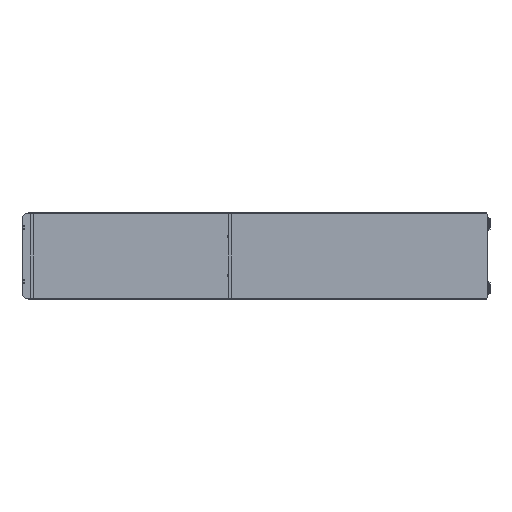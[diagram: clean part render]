
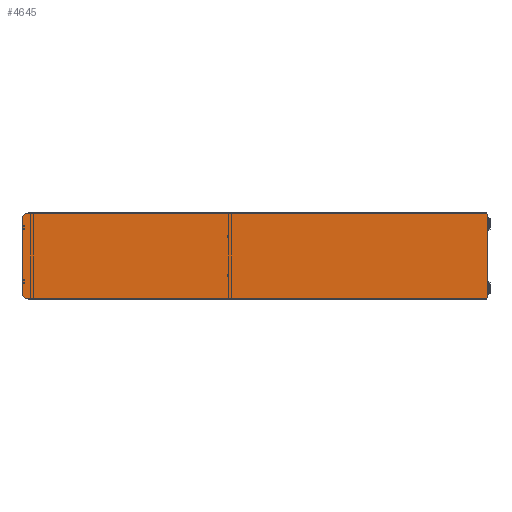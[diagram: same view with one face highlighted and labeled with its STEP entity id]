
A CAD part, left-side view. The second image highlights one B-rep face of the part: STEP entity #4645.
In plain terms, the highlighted planar face has unit normal (-1, 0, 0) as drawn and (0, 0, 1) by its records, which use the part's own axes.
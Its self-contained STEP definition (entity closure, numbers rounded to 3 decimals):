
#2967=CARTESIAN_POINT('',(-197.717,-1059.035,0.118));
#2980=DIRECTION('',(0.,-1.,0.));
#2981=VECTOR('',#2980,2118.113);
#2982=CARTESIAN_POINT('',(-197.636,1059.078,
0.12));
#2983=LINE('',#2982,#2981);
#2988=CARTESIAN_POINT('',(-197.636,1059.078,
0.12));
#3186=DIRECTION('',(-1.,0.,0.));
#3187=VECTOR('',#3186,365.319);
#3188=CARTESIAN_POINT('',(182.66,-1088.91,0.12));
#3189=LINE('',#3188,#3187);
#3190=DIRECTION('',(-0.707,0.707,0.));
#3191=VECTOR('',#3190,21.313);
#3192=CARTESIAN_POINT('',(-182.66,-1088.91,0.12));
#3193=LINE('',#3192,#3191);
#3194=DIRECTION('',(0.001,1.,0.));
#3195=VECTOR('',#3194,14.805);
#3196=CARTESIAN_POINT('',(-197.73,-1073.84,0.12));
#3197=LINE('',#3196,#3195);
#3198=DIRECTION('',(0.708,0.706,0.));
#3199=VECTOR('',#3198,5.279);
#3200=CARTESIAN_POINT('',(-197.636,1059.078,
0.12));
#3201=LINE('',#3200,#3199);
#3202=DIRECTION('',(0.708,-0.706,0.));
#3203=VECTOR('',#3202,5.308);
#3204=CARTESIAN_POINT('',(193.876,1062.824,0.12));
#3205=LINE('',#3204,#3203);
#3206=DIRECTION('',(0.,-1.,0.));
#3207=VECTOR('',#3206,2118.059);
#3208=CARTESIAN_POINT('',(197.636,1059.078,0.12));
#3209=LINE('',#3208,#3207);
#3210=DIRECTION('',(0.001,-1.,0.));
#3211=VECTOR('',#3210,14.858);
#3212=CARTESIAN_POINT('',(197.717,-1058.981,
0.119));
#3213=LINE('',#3212,#3211);
#3214=DIRECTION('',(-0.707,-0.707,0.));
#3215=VECTOR('',#3214,21.313);
#3216=CARTESIAN_POINT('',(197.73,-1073.84,0.12));
#3217=LINE('',#3216,#3215);
#3218=CARTESIAN_POINT('',(-140.,-1082.32,0.12));
#3219=DIRECTION('',(0.,0.,1.));
#3220=DIRECTION('',(-1.,0.,0.));
#3221=AXIS2_PLACEMENT_3D('',#3218,#3219,#3220);
#3223=CARTESIAN_POINT('',(-140.,-1077.82,0.12));
#3224=DIRECTION('',(0.,0.,1.));
#3225=DIRECTION('',(1.,0.,0.));
#3226=AXIS2_PLACEMENT_3D('',#3223,#3224,#3225);
#3228=CARTESIAN_POINT('',(110.,-1077.82,0.12));
#3229=DIRECTION('',(0.,0.,1.));
#3230=DIRECTION('',(1.,0.,0.));
#3231=AXIS2_PLACEMENT_3D('',#3228,#3229,#3230);
#3233=CARTESIAN_POINT('',(110.,-1082.32,0.12));
#3234=DIRECTION('',(0.,0.,1.));
#3235=DIRECTION('',(-1.,0.,0.));
#3236=AXIS2_PLACEMENT_3D('',#3233,#3234,#3235);
#3238=CARTESIAN_POINT('',(-125.,-1077.82,0.12));
#3239=DIRECTION('',(0.,0.,1.));
#3240=DIRECTION('',(1.,0.,0.));
#3241=AXIS2_PLACEMENT_3D('',#3238,#3239,#3240);
#3243=CARTESIAN_POINT('',(-125.,-1082.32,0.12));
#3244=DIRECTION('',(0.,0.,1.));
#3245=DIRECTION('',(-1.,0.,0.));
#3246=AXIS2_PLACEMENT_3D('',#3243,#3244,#3245);
#3248=CARTESIAN_POINT('',(125.,-1082.32,0.12));
#3249=DIRECTION('',(0.,0.,1.));
#3250=DIRECTION('',(-1.,0.,0.));
#3251=AXIS2_PLACEMENT_3D('',#3248,#3249,#3250);
#3253=CARTESIAN_POINT('',(125.,-1077.82,0.12));
#3254=DIRECTION('',(0.,0.,1.));
#3255=DIRECTION('',(1.,0.,0.));
#3256=AXIS2_PLACEMENT_3D('',#3253,#3254,#3255);
#3287=DIRECTION('',(-1.,0.,0.));
#3288=VECTOR('',#3287,387.774);
#3289=CARTESIAN_POINT('',(193.876,1062.824,0.12));
#3290=LINE('',#3289,#3288);
#3860=DIRECTION('',(0.,1.,0.));
#3861=VECTOR('',#3860,4.5);
#3862=CARTESIAN_POINT('',(-142.63,-1082.32,0.12));
#3863=LINE('',#3862,#3861);
#3872=DIRECTION('',(0.,-1.,0.));
#3873=VECTOR('',#3872,4.5);
#3874=CARTESIAN_POINT('',(-137.37,-1077.82,0.12));
#3875=LINE('',#3874,#3873);
#3892=DIRECTION('',(0.,-1.,0.));
#3893=VECTOR('',#3892,4.5);
#3894=CARTESIAN_POINT('',(112.63,-1077.82,0.12));
#3895=LINE('',#3894,#3893);
#3904=DIRECTION('',(0.,1.,0.));
#3905=VECTOR('',#3904,4.5);
#3906=CARTESIAN_POINT('',(107.37,-1082.32,0.12));
#3907=LINE('',#3906,#3905);
#3916=DIRECTION('',(0.,-1.,0.));
#3917=VECTOR('',#3916,4.5);
#3918=CARTESIAN_POINT('',(-122.37,-1077.82,0.12));
#3919=LINE('',#3918,#3917);
#3928=DIRECTION('',(0.,1.,0.));
#3929=VECTOR('',#3928,4.5);
#3930=CARTESIAN_POINT('',(-127.63,-1082.32,0.12));
#3931=LINE('',#3930,#3929);
#3932=DIRECTION('',(0.,1.,0.));
#3933=VECTOR('',#3932,4.5);
#3934=CARTESIAN_POINT('',(122.37,-1082.32,0.12));
#3935=LINE('',#3934,#3933);
#3944=DIRECTION('',(0.,-1.,0.));
#3945=VECTOR('',#3944,4.5);
#3946=CARTESIAN_POINT('',(127.63,-1077.82,0.12));
#3947=LINE('',#3946,#3945);
#4042=VERTEX_POINT('',#2967);
#4044=VERTEX_POINT('',#2988);
#4111=CARTESIAN_POINT('',(182.66,-1088.91,0.12));
#4112=CARTESIAN_POINT('',(-182.66,-1088.91,0.12));
#4113=VERTEX_POINT('',#4111);
#4114=VERTEX_POINT('',#4112);
#4115=CARTESIAN_POINT('',(-197.73,-1073.84,0.12));
#4116=VERTEX_POINT('',#4115);
#4117=CARTESIAN_POINT('',(-193.898,1062.806,
0.12));
#4118=VERTEX_POINT('',#4117);
#4119=CARTESIAN_POINT('',(193.876,1062.824,0.12));
#4120=VERTEX_POINT('',#4119);
#4121=CARTESIAN_POINT('',(197.636,1059.078,0.12));
#4122=VERTEX_POINT('',#4121);
#4123=CARTESIAN_POINT('',(197.717,-1058.981,
0.119));
#4124=VERTEX_POINT('',#4123);
#4125=CARTESIAN_POINT('',(197.73,-1073.84,0.12));
#4126=VERTEX_POINT('',#4125);
#4127=CARTESIAN_POINT('',(-142.63,-1082.32,0.12));
#4128=CARTESIAN_POINT('',(-142.63,-1077.82,0.12));
#4129=VERTEX_POINT('',#4127);
#4130=VERTEX_POINT('',#4128);
#4131=CARTESIAN_POINT('',(-137.37,-1082.32,0.12));
#4132=VERTEX_POINT('',#4131);
#4133=CARTESIAN_POINT('',(-137.37,-1077.82,0.12));
#4134=VERTEX_POINT('',#4133);
#4135=CARTESIAN_POINT('',(112.63,-1077.82,0.12));
#4136=CARTESIAN_POINT('',(107.37,-1077.82,0.12));
#4137=VERTEX_POINT('',#4135);
#4138=VERTEX_POINT('',#4136);
#4139=CARTESIAN_POINT('',(107.37,-1082.32,0.12));
#4140=VERTEX_POINT('',#4139);
#4141=CARTESIAN_POINT('',(112.63,-1082.32,0.12));
#4142=VERTEX_POINT('',#4141);
#4143=CARTESIAN_POINT('',(-122.37,-1077.82,0.12));
#4144=CARTESIAN_POINT('',(-127.63,-1077.82,0.12));
#4145=VERTEX_POINT('',#4143);
#4146=VERTEX_POINT('',#4144);
#4147=CARTESIAN_POINT('',(-127.63,-1082.32,0.12));
#4148=VERTEX_POINT('',#4147);
#4149=CARTESIAN_POINT('',(-122.37,-1082.32,0.12));
#4150=VERTEX_POINT('',#4149);
#4151=CARTESIAN_POINT('',(122.37,-1082.32,0.12));
#4152=CARTESIAN_POINT('',(122.37,-1077.82,0.12));
#4153=VERTEX_POINT('',#4151);
#4154=VERTEX_POINT('',#4152);
#4155=CARTESIAN_POINT('',(127.63,-1082.32,0.12));
#4156=VERTEX_POINT('',#4155);
#4157=CARTESIAN_POINT('',(127.63,-1077.82,0.12));
#4158=VERTEX_POINT('',#4157);
#4580=CARTESIAN_POINT('',(-197.61,-1062.79,0.12));
#4581=DIRECTION('',(0.,0.,1.));
#4582=DIRECTION('',(1.,0.,0.));
#4583=AXIS2_PLACEMENT_3D('',#4580,#4581,#4582);
#4584=PLANE('',#4583);
#4585=ORIENTED_EDGE('',*,*,#4570,.T.);
#4587=ORIENTED_EDGE('',*,*,#4586,.T.);
#4589=ORIENTED_EDGE('',*,*,#4588,.T.);
#4590=ORIENTED_EDGE('',*,*,#4415,.F.);
#4592=ORIENTED_EDGE('',*,*,#4591,.T.);
#4594=ORIENTED_EDGE('',*,*,#4593,.F.);
#4596=ORIENTED_EDGE('',*,*,#4595,.T.);
#4598=ORIENTED_EDGE('',*,*,#4597,.T.);
#4600=ORIENTED_EDGE('',*,*,#4599,.T.);
#4602=ORIENTED_EDGE('',*,*,#4601,.T.);
#4603=EDGE_LOOP('',(#4585,#4587,#4589,#4590,#4592,#4594,#4596,#4598,#4600,
#4602));
#4604=FACE_OUTER_BOUND('',#4603,.F.);
#4606=ORIENTED_EDGE('',*,*,#4605,.F.);
#4608=ORIENTED_EDGE('',*,*,#4607,.T.);
#4610=ORIENTED_EDGE('',*,*,#4609,.F.);
#4612=ORIENTED_EDGE('',*,*,#4611,.T.);
#4613=EDGE_LOOP('',(#4606,#4608,#4610,#4612));
#4614=FACE_BOUND('',#4613,.F.);
#4616=ORIENTED_EDGE('',*,*,#4615,.T.);
#4618=ORIENTED_EDGE('',*,*,#4617,.F.);
#4620=ORIENTED_EDGE('',*,*,#4619,.T.);
#4622=ORIENTED_EDGE('',*,*,#4621,.F.);
#4623=EDGE_LOOP('',(#4616,#4618,#4620,#4622));
#4624=FACE_BOUND('',#4623,.F.);
#4626=ORIENTED_EDGE('',*,*,#4625,.T.);
#4628=ORIENTED_EDGE('',*,*,#4627,.F.);
#4630=ORIENTED_EDGE('',*,*,#4629,.T.);
#4632=ORIENTED_EDGE('',*,*,#4631,.F.);
#4633=EDGE_LOOP('',(#4626,#4628,#4630,#4632));
#4634=FACE_BOUND('',#4633,.F.);
#4636=ORIENTED_EDGE('',*,*,#4635,.F.);
#4638=ORIENTED_EDGE('',*,*,#4637,.T.);
#4640=ORIENTED_EDGE('',*,*,#4639,.F.);
#4642=ORIENTED_EDGE('',*,*,#4641,.T.);
#4643=EDGE_LOOP('',(#4636,#4638,#4640,#4642));
#4644=FACE_BOUND('',#4643,.F.);
#4645=ADVANCED_FACE('',(#4604,#4614,#4624,#4634,#4644),#4584,.T.);
#3222=CIRCLE('',#3221,2.63);
#3227=CIRCLE('',#3226,2.63);
#3232=CIRCLE('',#3231,2.63);
#3237=CIRCLE('',#3236,2.63);
#3242=CIRCLE('',#3241,2.63);
#3247=CIRCLE('',#3246,2.63);
#3252=CIRCLE('',#3251,2.63);
#3257=CIRCLE('',#3256,2.63);
#4415=EDGE_CURVE('',#4044,#4042,#2983,.T.);
#4570=EDGE_CURVE('',#4113,#4114,#3189,.T.);
#4586=EDGE_CURVE('',#4114,#4116,#3193,.T.);
#4588=EDGE_CURVE('',#4116,#4042,#3197,.T.);
#4591=EDGE_CURVE('',#4044,#4118,#3201,.T.);
#4593=EDGE_CURVE('',#4120,#4118,#3290,.T.);
#4595=EDGE_CURVE('',#4120,#4122,#3205,.T.);
#4597=EDGE_CURVE('',#4122,#4124,#3209,.T.);
#4599=EDGE_CURVE('',#4124,#4126,#3213,.T.);
#4601=EDGE_CURVE('',#4126,#4113,#3217,.T.);
#4605=EDGE_CURVE('',#4129,#4130,#3863,.T.);
#4607=EDGE_CURVE('',#4129,#4132,#3222,.T.);
#4609=EDGE_CURVE('',#4134,#4132,#3875,.T.);
#4611=EDGE_CURVE('',#4134,#4130,#3227,.T.);
#4615=EDGE_CURVE('',#4137,#4138,#3232,.T.);
#4617=EDGE_CURVE('',#4140,#4138,#3907,.T.);
#4619=EDGE_CURVE('',#4140,#4142,#3237,.T.);
#4621=EDGE_CURVE('',#4137,#4142,#3895,.T.);
#4625=EDGE_CURVE('',#4145,#4146,#3242,.T.);
#4627=EDGE_CURVE('',#4148,#4146,#3931,.T.);
#4629=EDGE_CURVE('',#4148,#4150,#3247,.T.);
#4631=EDGE_CURVE('',#4145,#4150,#3919,.T.);
#4635=EDGE_CURVE('',#4153,#4154,#3935,.T.);
#4637=EDGE_CURVE('',#4153,#4156,#3252,.T.);
#4639=EDGE_CURVE('',#4158,#4156,#3947,.T.);
#4641=EDGE_CURVE('',#4158,#4154,#3257,.T.);
